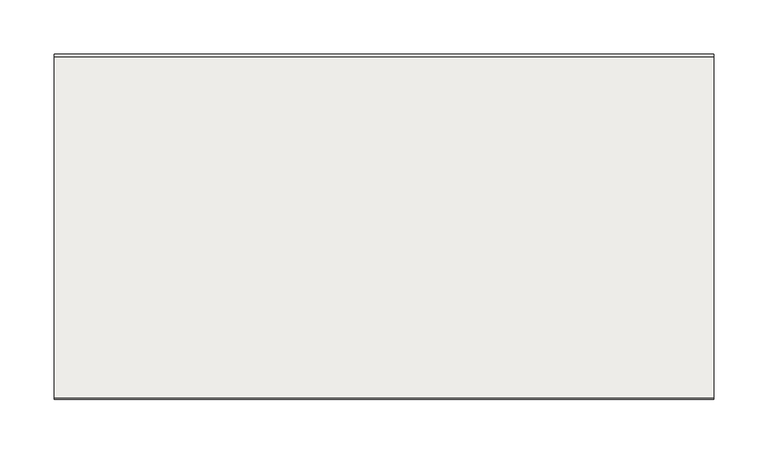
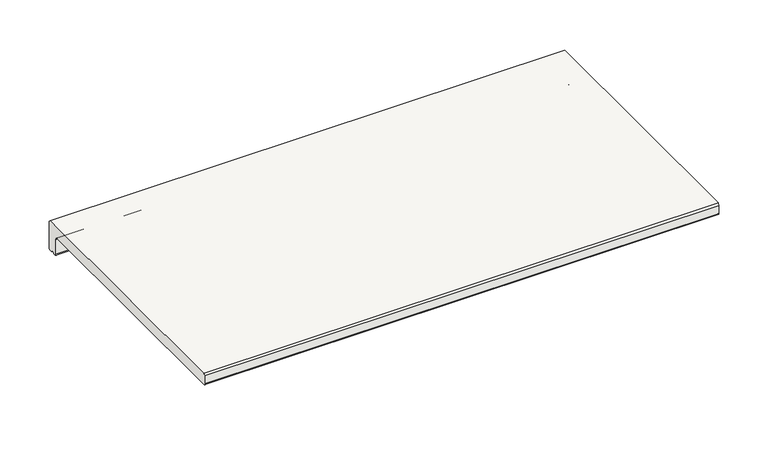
"""IFC4 building model written with IfcOpenShell, lengths in millimetres: slab geometry, ROSA GRES_L62 : Pieza L62_Tresor_Java_Anti-Slip."""

from ifc_helpers import new_model, si_unit, point, frame, frame_2d, origin, place, context, project, spatial, polyline, circle_curve, trimmed, segment, composite_curve, outline, extrude, source, transform, mapped, element, save


def slab_e89e9ebe(model_context):
    return source(origin(), model_context, "Body", "SweptSolid", [
        extrude(outline(composite_curve([segment(trimmed(circle_curve(frame_2d((-12.1001991, -35.1001991)), 1.8998009), [point((-12.1001991, -37.0))], [point((-14.0, -35.1001991))], False, "CARTESIAN"), True, "CONTINUOUS"), segment(polyline([(-14.0, -35.1001991), (-14.0, -16.5836242)]), True, "CONTINUOUS"), segment(trimmed(circle_curve(frame_2d((-16.6422322, -16.5836242)), 2.6422322), [point((-14.0, -16.5836242))], [point((-16.6422322, -13.9413919))], True, "CARTESIAN"), True, "CONTINUOUS"), segment(polyline([(-16.6422322, -13.9413919), (-315.5234432, -13.9413919)]), True, "CONTINUOUS"), segment(trimmed(circle_curve(frame_2d((-315.5234432, -12.4648352)), 1.4765568), [point((-315.5234432, -13.9413919))], [point((-317.0, -12.4648352))], False, "CARTESIAN"), True, "CONTINUOUS"), segment(polyline([(-317.0, -12.4648352), (-317.0, -2.5), (-315.5, 0.0), (-2.5, 0.0), (0.0, -2.5), (0.0, -34.5)]), True, "CONTINUOUS"), segment(trimmed(circle_curve(frame_2d((-2.5, -34.5)), 2.5), [point((0.0, -34.5))], [point((-2.5, -37.0))], False, "CARTESIAN"), True, "CONTINUOUS"), segment(polyline([(-2.5, -37.0), (-5.422949, -37.0)]), True, "CONTINUOUS"), segment(trimmed(circle_curve(frame_2d((-7.4142134, -37.0)), 1.9912643), [point((-5.422949, -37.0))], [point((-9.4054777, -37.0))], True, "CARTESIAN"), True, "CONTINUOUS"), segment(polyline([(-9.4054777, -37.0), (-12.1001991, -37.0)]), True, "CONTINUOUS")], self_intersect=False)), frame((0.0, 0.0, 0.0), z_axis=(1.0, 0.0, 0.0), x_axis=(0.0, 1.0, 0.0)), (0.0, 0.0, 1.0), 605.0),
    ])


if __name__ == "__main__":
    model = new_model("IFC4")
    model_context = context("Model", 3, world=origin())
    ifc_project = project(units=[si_unit("LENGTHUNIT", "METRE", prefix="MILLI")], contexts=[model_context])
    site = spatial("IfcSite", under=ifc_project)
    building = spatial("IfcBuilding", under=site)
    placement = place(None, origin())
    slab_shape = slab_e89e9ebe(model_context)
    element("IfcSlab", 1, ObjectType="ROSA GRES_L62 : Pieza L62_Tresor_Java_Anti-Slip", at=placement, inside=building, context=model_context, shape_type="MappedRepresentation", body=[
        mapped(slab_shape, transform((0.0, 0.0, 0.0), x_axis=(1.0, 0.0, 0.0), y_axis=(0.0, 1.0, 0.0), z_axis=(0.0, 0.0, 1.0))),
    ])
    save(model, "model.ifc")
